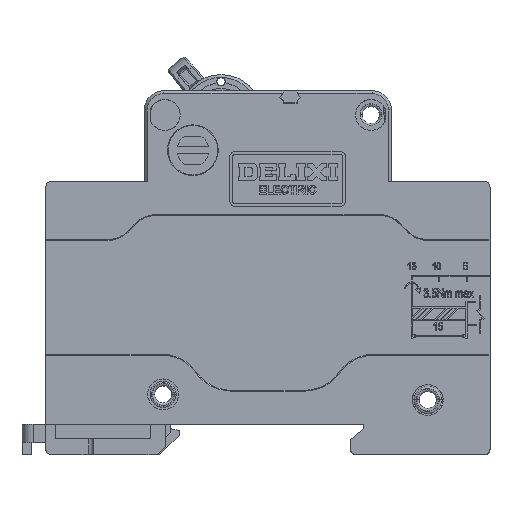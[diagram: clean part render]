
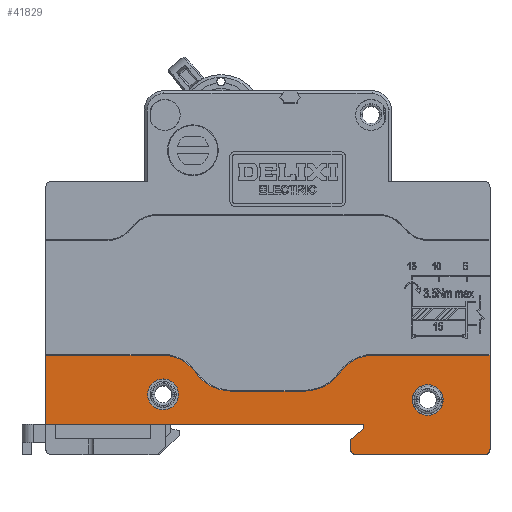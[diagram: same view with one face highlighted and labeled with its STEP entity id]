
A CAD part, top view. The second image highlights one B-rep face of the part: STEP entity #41829.
In plain terms, the highlighted planar face has unit normal (0, 0, 1).
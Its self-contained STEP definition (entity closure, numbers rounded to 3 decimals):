
#251=DIRECTION('',(0.,-1.,0.));
#252=VECTOR('',#251,12.5);
#253=CARTESIAN_POINT('',(-46.2,-40.5,13.4));
#254=LINE('',#253,#252);
#1261=DIRECTION('',(0.,-1.,0.));
#1262=VECTOR('',#1261,0.8);
#1263=CARTESIAN_POINT('',(11.5,-53.,13.4));
#1264=LINE('',#1263,#1262);
#1281=DIRECTION('',(1.,0.,0.));
#1282=VECTOR('',#1281,21.3);
#1283=CARTESIAN_POINT('',(-46.2,-40.5,13.4));
#1284=LINE('',#1283,#1282);
#1285=CARTESIAN_POINT('',(-24.9,-47.6,13.4));
#1286=DIRECTION('',(0.,0.,-1.));
#1287=DIRECTION('',(0.,1.,0.));
#1288=AXIS2_PLACEMENT_3D('',#1285,#1286,#1287);
#1290=CARTESIAN_POINT('',(-12.488,-39.,13.4));
#1291=DIRECTION('',(0.,0.,1.));
#1292=DIRECTION('',(-0.822,-0.57,0.));
#1293=AXIS2_PLACEMENT_3D('',#1290,#1291,#1292);
#1295=DIRECTION('',(1.,0.,0.));
#1296=VECTOR('',#1295,13.177);
#1297=CARTESIAN_POINT('',(-12.488,-47.,13.4));
#1298=LINE('',#1297,#1296);
#1299=CARTESIAN_POINT('',(0.688,-39.,13.4));
#1300=DIRECTION('',(0.,0.,1.));
#1301=DIRECTION('',(0.,-1.,0.));
#1302=AXIS2_PLACEMENT_3D('',#1299,#1300,#1301);
#1304=CARTESIAN_POINT('',(13.1,-47.6,13.4));
#1305=DIRECTION('',(0.,0.,-1.));
#1306=DIRECTION('',(-0.822,0.57,0.));
#1307=AXIS2_PLACEMENT_3D('',#1304,#1305,#1306);
#1309=DIRECTION('',(1.,0.,0.));
#1310=VECTOR('',#1309,21.3);
#1311=CARTESIAN_POINT('',(13.1,-40.5,13.4));
#1312=LINE('',#1311,#1310);
#1313=DIRECTION('',(0.,-1.,0.));
#1314=VECTOR('',#1313,17.);
#1315=CARTESIAN_POINT('',(34.4,-40.5,13.4));
#1316=LINE('',#1315,#1314);
#1317=CARTESIAN_POINT('',(33.4,-57.5,13.4));
#1318=DIRECTION('',(0.,0.,-1.));
#1319=DIRECTION('',(1.,0.,0.));
#1320=AXIS2_PLACEMENT_3D('',#1317,#1318,#1319);
#1322=DIRECTION('',(-1.,0.,0.));
#1323=VECTOR('',#1322,23.3);
#1324=CARTESIAN_POINT('',(33.4,-58.5,13.4));
#1325=LINE('',#1324,#1323);
#1326=CARTESIAN_POINT('',(10.1,-57.5,13.4));
#1327=DIRECTION('',(0.,0.,-1.));
#1328=DIRECTION('',(0.,-1.,0.));
#1329=AXIS2_PLACEMENT_3D('',#1326,#1327,#1328);
#1331=DIRECTION('',(0.,1.,0.));
#1332=VECTOR('',#1331,1.686);
#1333=CARTESIAN_POINT('',(9.1,-57.5,13.4));
#1334=LINE('',#1333,#1332);
#1335=DIRECTION('',(0.766,0.643,0.));
#1336=VECTOR('',#1335,3.133);
#1337=CARTESIAN_POINT('',(9.1,-55.814,13.4));
#1338=LINE('',#1337,#1336);
#1339=DIRECTION('',(-1.,0.,0.));
#1340=VECTOR('',#1339,57.7);
#1341=CARTESIAN_POINT('',(11.5,-53.,13.4));
#1342=LINE('',#1341,#1340);
#1343=CARTESIAN_POINT('',(-24.9,-47.6,13.4));
#1344=DIRECTION('',(0.,0.,1.));
#1345=DIRECTION('',(1.,0.,0.));
#1346=AXIS2_PLACEMENT_3D('',#1343,#1344,#1345);
#1348=CARTESIAN_POINT('',(-24.9,-47.6,13.4));
#1349=DIRECTION('',(0.,0.,1.));
#1350=DIRECTION('',(-1.,0.,0.));
#1351=AXIS2_PLACEMENT_3D('',#1348,#1349,#1350);
#1353=CARTESIAN_POINT('',(23.1,-48.6,13.4));
#1354=DIRECTION('',(0.,0.,1.));
#1355=DIRECTION('',(1.,0.,0.));
#1356=AXIS2_PLACEMENT_3D('',#1353,#1354,#1355);
#1358=CARTESIAN_POINT('',(23.1,-48.6,13.4));
#1359=DIRECTION('',(0.,0.,1.));
#1360=DIRECTION('',(-1.,0.,0.));
#1361=AXIS2_PLACEMENT_3D('',#1358,#1359,#1360);
#36314=CARTESIAN_POINT('',(-46.2,-40.5,13.4));
#36315=CARTESIAN_POINT('',(-24.9,-40.5,13.4));
#36316=VERTEX_POINT('',#36314);
#36317=VERTEX_POINT('',#36315);
#36318=CARTESIAN_POINT('',(-19.064,-43.556,13.4));
#36319=VERTEX_POINT('',#36318);
#36320=CARTESIAN_POINT('',(-12.488,-47.,13.4));
#36321=VERTEX_POINT('',#36320);
#36322=CARTESIAN_POINT('',(0.688,-47.,13.4));
#36323=VERTEX_POINT('',#36322);
#36324=CARTESIAN_POINT('',(7.264,-43.556,13.4));
#36325=VERTEX_POINT('',#36324);
#36326=CARTESIAN_POINT('',(13.1,-40.5,13.4));
#36327=VERTEX_POINT('',#36326);
#36328=CARTESIAN_POINT('',(34.4,-40.5,13.4));
#36329=VERTEX_POINT('',#36328);
#36330=CARTESIAN_POINT('',(34.4,-57.5,13.4));
#36331=VERTEX_POINT('',#36330);
#36332=CARTESIAN_POINT('',(33.4,-58.5,13.4));
#36333=VERTEX_POINT('',#36332);
#36334=CARTESIAN_POINT('',(10.1,-58.5,13.4));
#36335=VERTEX_POINT('',#36334);
#36336=CARTESIAN_POINT('',(9.1,-57.5,13.4));
#36337=VERTEX_POINT('',#36336);
#36338=CARTESIAN_POINT('',(9.1,-55.814,13.4));
#36339=VERTEX_POINT('',#36338);
#36340=CARTESIAN_POINT('',(11.5,-53.8,13.4));
#36341=VERTEX_POINT('',#36340);
#36342=CARTESIAN_POINT('',(11.5,-53.,13.4));
#36343=VERTEX_POINT('',#36342);
#36344=CARTESIAN_POINT('',(-46.2,-53.,13.4));
#36345=VERTEX_POINT('',#36344);
#36346=CARTESIAN_POINT('',(-22.1,-47.6,13.4));
#36347=CARTESIAN_POINT('',(-27.7,-47.6,13.4));
#36348=VERTEX_POINT('',#36346);
#36349=VERTEX_POINT('',#36347);
#36350=CARTESIAN_POINT('',(25.9,-48.6,13.4));
#36351=CARTESIAN_POINT('',(20.3,-48.6,13.4));
#36352=VERTEX_POINT('',#36350);
#36353=VERTEX_POINT('',#36351);
#41781=CARTESIAN_POINT('',(0.,0.,13.4));
#41782=DIRECTION('',(0.,0.,1.));
#41783=DIRECTION('',(1.,0.,0.));
#41784=AXIS2_PLACEMENT_3D('',#41781,#41782,#41783);
#41785=PLANE('',#41784);
#41787=ORIENTED_EDGE('',*,*,#41786,.T.);
#41789=ORIENTED_EDGE('',*,*,#41788,.T.);
#41791=ORIENTED_EDGE('',*,*,#41790,.T.);
#41793=ORIENTED_EDGE('',*,*,#41792,.T.);
#41795=ORIENTED_EDGE('',*,*,#41794,.T.);
#41797=ORIENTED_EDGE('',*,*,#41796,.T.);
#41799=ORIENTED_EDGE('',*,*,#41798,.T.);
#41801=ORIENTED_EDGE('',*,*,#41800,.T.);
#41803=ORIENTED_EDGE('',*,*,#41802,.T.);
#41805=ORIENTED_EDGE('',*,*,#41804,.T.);
#41807=ORIENTED_EDGE('',*,*,#41806,.T.);
#41809=ORIENTED_EDGE('',*,*,#41808,.T.);
#41811=ORIENTED_EDGE('',*,*,#41810,.T.);
#41812=ORIENTED_EDGE('',*,*,#41761,.F.);
#41813=ORIENTED_EDGE('',*,*,#41625,.T.);
#41814=ORIENTED_EDGE('',*,*,#40538,.F.);
#41815=EDGE_LOOP('',(#41787,#41789,#41791,#41793,#41795,#41797,#41799,#41801,
#41803,#41805,#41807,#41809,#41811,#41812,#41813,#41814));
#41816=FACE_OUTER_BOUND('',#41815,.F.);
#41818=ORIENTED_EDGE('',*,*,#41817,.T.);
#41820=ORIENTED_EDGE('',*,*,#41819,.T.);
#41821=EDGE_LOOP('',(#41818,#41820));
#41822=FACE_BOUND('',#41821,.F.);
#41824=ORIENTED_EDGE('',*,*,#41823,.T.);
#41826=ORIENTED_EDGE('',*,*,#41825,.T.);
#41827=EDGE_LOOP('',(#41824,#41826));
#41828=FACE_BOUND('',#41827,.F.);
#41829=ADVANCED_FACE('',(#41816,#41822,#41828),#41785,.T.);
#1289=CIRCLE('',#1288,7.1);
#1294=CIRCLE('',#1293,8.);
#1303=CIRCLE('',#1302,8.);
#1308=CIRCLE('',#1307,7.1);
#1321=CIRCLE('',#1320,1.);
#1330=CIRCLE('',#1329,1.);
#1347=CIRCLE('',#1346,2.8);
#1352=CIRCLE('',#1351,2.8);
#1357=CIRCLE('',#1356,2.8);
#1362=CIRCLE('',#1361,2.8);
#40538=EDGE_CURVE('',#36316,#36345,#254,.T.);
#41625=EDGE_CURVE('',#36343,#36345,#1342,.T.);
#41761=EDGE_CURVE('',#36343,#36341,#1264,.T.);
#41786=EDGE_CURVE('',#36316,#36317,#1284,.T.);
#41788=EDGE_CURVE('',#36317,#36319,#1289,.T.);
#41790=EDGE_CURVE('',#36319,#36321,#1294,.T.);
#41792=EDGE_CURVE('',#36321,#36323,#1298,.T.);
#41794=EDGE_CURVE('',#36323,#36325,#1303,.T.);
#41796=EDGE_CURVE('',#36325,#36327,#1308,.T.);
#41798=EDGE_CURVE('',#36327,#36329,#1312,.T.);
#41800=EDGE_CURVE('',#36329,#36331,#1316,.T.);
#41802=EDGE_CURVE('',#36331,#36333,#1321,.T.);
#41804=EDGE_CURVE('',#36333,#36335,#1325,.T.);
#41806=EDGE_CURVE('',#36335,#36337,#1330,.T.);
#41808=EDGE_CURVE('',#36337,#36339,#1334,.T.);
#41810=EDGE_CURVE('',#36339,#36341,#1338,.T.);
#41817=EDGE_CURVE('',#36348,#36349,#1347,.T.);
#41819=EDGE_CURVE('',#36349,#36348,#1352,.T.);
#41823=EDGE_CURVE('',#36352,#36353,#1357,.T.);
#41825=EDGE_CURVE('',#36353,#36352,#1362,.T.);
